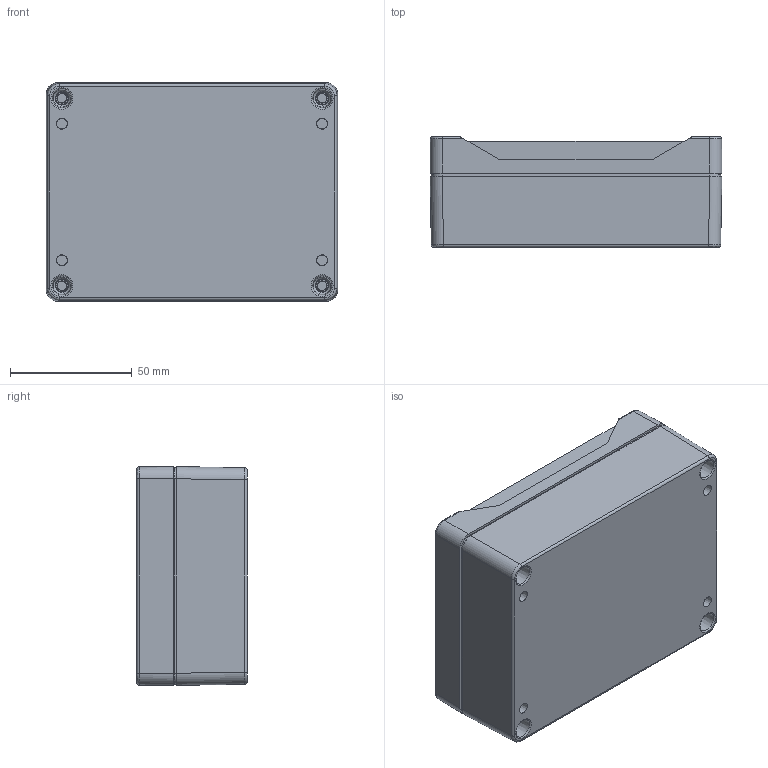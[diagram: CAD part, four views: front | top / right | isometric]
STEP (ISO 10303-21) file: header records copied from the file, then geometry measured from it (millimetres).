
FILE_DESCRIPTION(/* description */ (''),/* implementation_level */ '2;1');
FILE_NAME(/* name */ '1555FL.stp',/* time_stamp */ '2025-02-04T14:43:36-05:00',/* author */ ('mbeerman'),/* organization */ (''),/* preprocessor_version */ 'ST-DEVELOPER v20',/* originating_system */ 'Autodesk Inventor 2024',/* authorisation */ '');
FILE_SCHEMA (('AUTOMOTIVE_DESIGN { 1 0 10303 214 3 1 1 }'));
Products named in the file (7): 1554Q; 1554FL Box v1; lid F_G1; SC576 (screw M4-0.7X 20mm PN); 1554F-G GASKET; Insert; Insert_1
Assembly tree (15 placements, depth 2):
  1554Q
    1554FL Box v1
    lid F_G1
    SC576 (screw M4-0.7X 20mm PN)  x4
    1554F-G GASKET
    Insert_1  x4
    Insert  x4
Bounding box: 120 x 45.45 x 90 mm (x, y, z)
Volume: 130209.3 mm3; surface area: 95091.5 mm2
Topology: 15 solids, 15 shells, 1859 faces, 4807 edges, 3111 vertices
Faces by surface type: plane 667, bspline 561, cylinder 345, cone 206, torus 72, sphere 8
Full cylindrical faces by diameter (mm): 1.823 x1, 2 x4, 2.464 x4, 2.482 x1, 3.251 x4, 3.5 x8, 3.81 x12, 3.88 x4, 3.912 x4, 4.6 x4, 5.334 x4, 5.537 x8, 6.35 x8, 7 x4, 10 x1
Entity records: 50823 total; most frequent: CARTESIAN_POINT 20446, ORIENTED_EDGE 6684, DIRECTION 5483, EDGE_CURVE 3342, VERTEX_POINT 2142, AXIS2_PLACEMENT_3D 1917, LINE 1649, VECTOR 1649
